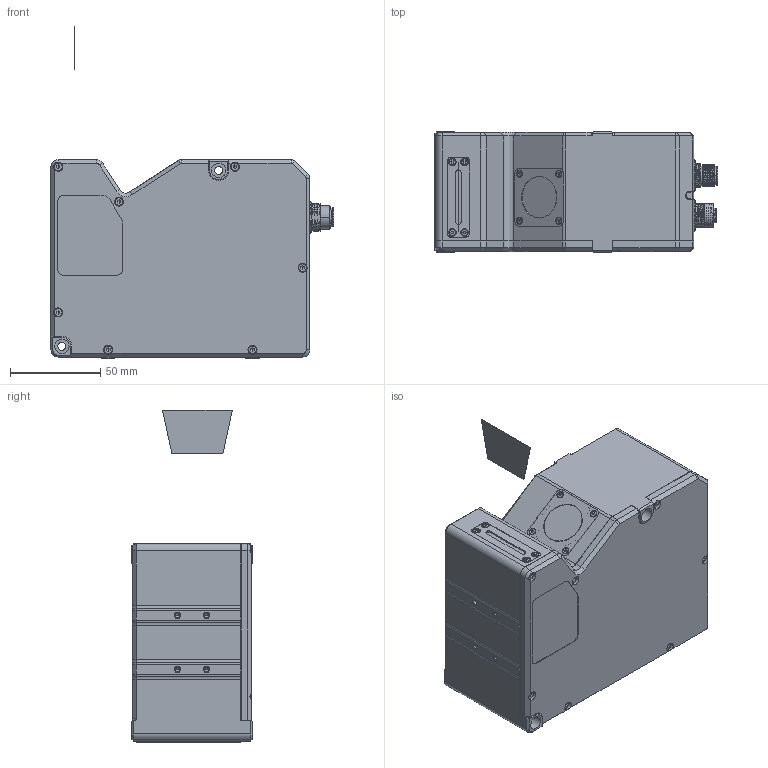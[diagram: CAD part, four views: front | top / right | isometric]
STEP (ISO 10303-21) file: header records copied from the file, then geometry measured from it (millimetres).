
FILE_DESCRIPTION((''),'2;1');
FILE_NAME('00-ALL-DP4060-NEW_ASM','2024-02-29T13:57:54',('duhuaiyuan'),(''),'CREO PARAMETRIC BY PTC INC, 2020044','CREO PARAMETRIC BY PTC INC, 2020044','');
FILE_SCHEMA(('CONFIG_CONTROL_DESIGN'));
Products named in the file (17): DE-14-043128; DE-14-009571; DE-18-000035; JTLGPZJ_4060_ASM; DE-14-043153; DE-18-000141; JGLGPZJ_4020_ASM; DE-12-004014; SC-KM2X4-H-B; WKZJ_4060_ASM; DE-14-043131; DBZJ_4060_ASM; SC-AM2_5X8NL-BNI-SCM435-GB70_1; 101304205; 101304206; PCB_JKB_4K-NEW_ASM; 00-ALL-DP4060-NEW_ASM
Assembly tree (29 placements, depth 4):
  00-ALL-DP4060-NEW_ASM
    WKZJ_4060_ASM
      DE-14-043128
      JTLGPZJ_4060_ASM
        DE-14-009571
        DE-18-000035
      JGLGPZJ_4020_ASM
        DE-14-043153
        DE-18-000141
      DE-12-004014
      SC-KM2X4-H-B  x8
    DBZJ_4060_ASM
      DE-14-043131
    SC-AM2_5X8NL-BNI-SCM435-GB70_1  x7
    PCB_JKB_4K-NEW_ASM
      101304205
      101304206
Bounding box: 157.4 x 67 x 184.1 mm (x, y, z)
Volume: 997860.4 mm3; surface area: 115712.9 mm2
Topology: 49 solids, 93 shells, 2018 faces, 5257 edges, 3405 vertices
Faces by surface type: cylinder 815, plane 652, cone 315, bspline 104, torus 92, sphere 40
Entity records: 66507 total; most frequent: CARTESIAN_POINT 23062, DIRECTION 9208, ORIENTED_EDGE 8860, EDGE_CURVE 4485, AXIS2_PLACEMENT_3D 3668, VERTEX_POINT 2987, EDGE_LOOP 1989, CIRCLE 1985
